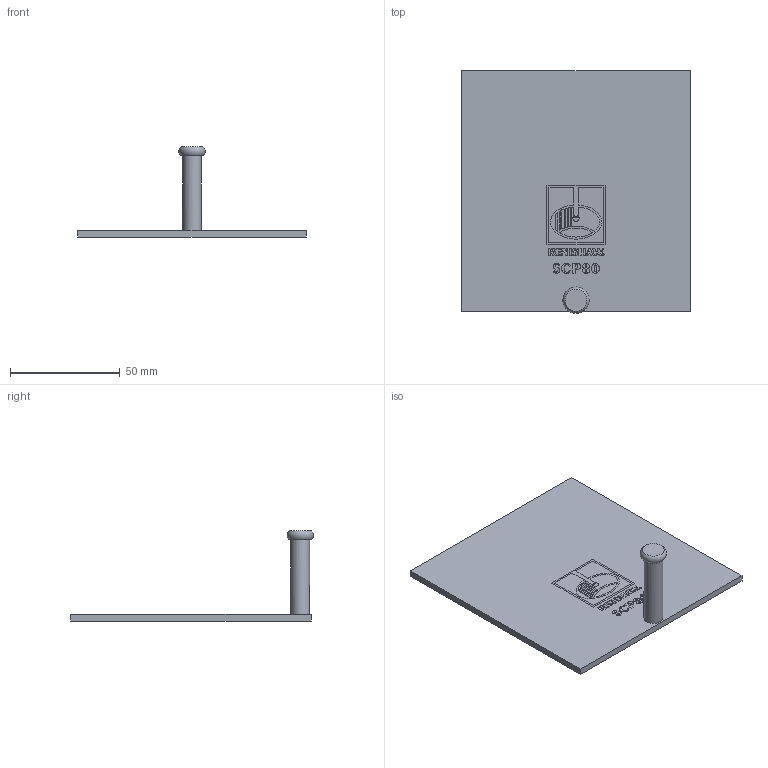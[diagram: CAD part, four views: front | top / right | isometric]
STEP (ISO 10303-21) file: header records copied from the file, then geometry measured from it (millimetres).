
FILE_DESCRIPTION(/* description */ (''),/* implementation_level */ '2;1');
FILE_NAME(/* name */ 'LA-2238-0026#-B.stp',/* time_stamp */ '2012-09-07T09:53:21+01:00',/* author */ (''),/* organization */ (''),/* preprocessor_version */ 'ST-DEVELOPER v11',/* originating_system */ 'SIEMENS PLM Software NX 7.5',/* authorisation */ '');
FILE_SCHEMA (('AUTOMOTIVE_DESIGN { 1 0 10303 214 1 1 1 1 }'));
Length unit declared in the file: millimetre
Products named in the file (1): rt13371Ayuzb
Bounding box: 104.1 x 110.5 x 41 mm (x, y, z)
Volume: 36535.3 mm3; surface area: 25195.7 mm2
Topology: 1 solids, 1 shells, 39 faces, 199 edges, 193 vertices
Faces by surface type: bspline 21, plane 16, torus 1, cylinder 1
Full cylindrical faces by diameter (mm): 8.5 x1
Entity records: 2723 total; most frequent: CARTESIAN_POINT 1041, ORIENTED_EDGE 392, EDGE_CURVE 196, VERTEX_POINT 192, B_SPLINE_CURVE_WITH_KNOTS 146, DIRECTION 110, EDGE_LOOP 72, FACE_BOUND 43
